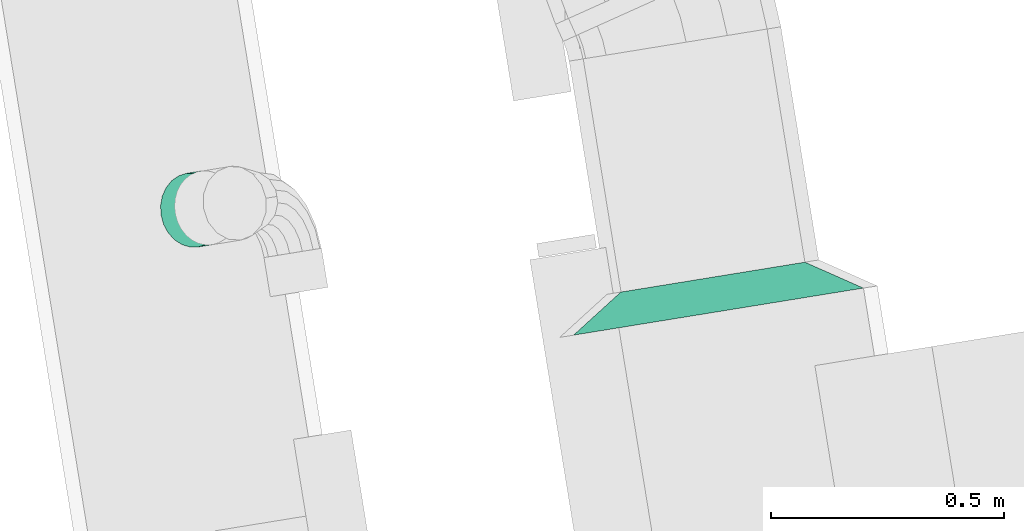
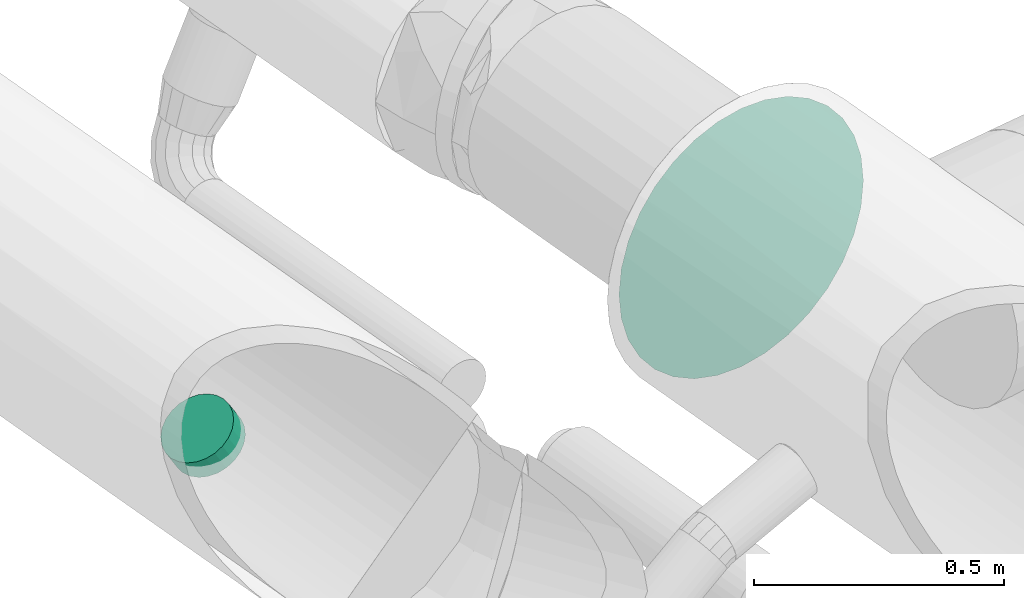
# One storey, part 33 of 39: 2 flow fittings.
"""IFC2X3 building model written with IfcOpenShell, lengths in millimetres."""

import ifcopenshell
import ifcopenshell.guid

model = None  # the IFC model being written
_history = None  # IfcOwnerHistory: only IFC2X3 demands one
_inside = {}  # id of a spatial element -> (the spatial element, [elements in it])
_under = {}  # id of a project, library or spatial element -> (it, [spatial elements below it])
_declared = {}  # id of a project -> (the project, [libraries it declares])
_typed = {}  # id of a type object -> (the type object, [elements of that type])
_made_of = {}  # id of a material, layer set ... -> (it, [elements and type objects made of it])


def new_model(schema):
    """Start an empty IFC model of exactly this schema.

    Asked for "IFC4X3", IfcOpenShell would pick the latest addendum, in which some entities
    have other attributes; the version numbers below select the first issue.
    IFC2X3 requires an IfcOwnerHistory on every rooted entity: one is made here for all.
    """
    global model, _history
    if schema == "IFC4X3":
        model = ifcopenshell.file(schema_version=(4, 3, 0, 0))
    else:
        model = ifcopenshell.file(schema=schema)
    _inside.clear()
    _under.clear()
    _declared.clear()
    _typed.clear()
    _made_of.clear()
    _history = None
    if model.schema == "IFC2X3":
        org = make("IfcOrganization", Name="unknown")
        user = make(
            "IfcPersonAndOrganization",
            ThePerson=make("IfcPerson", FamilyName="unknown"),
            TheOrganization=org,
        )
        app = make(
            "IfcApplication",
            ApplicationDeveloper=org,
            Version="unknown",
            ApplicationFullName="unknown",
            ApplicationIdentifier="unknown",
        )
        _history = make(
            "IfcOwnerHistory",
            OwningUser=user,
            OwningApplication=app,
            ChangeAction="ADDED",
            CreationDate=0,
        )
    return model


def make(cls, **values):
    """One entity of the class cls with the attributes given. An attribute that is None is left unset."""
    return model.create_entity(
        cls, **{name: value for name, value in values.items() if value is not None}
    )


def entity(cls, *values):
    """Any entity or typed value of the class cls, its attributes in the order of the schema. None: left unset."""
    e = model.create_entity(cls)
    for i, value in enumerate(values):
        if value is not None:
            e[i] = value
    return e


def rooted(cls, **values):
    """An entity with a GlobalId (a new one), such as an element, a storey or a relation."""
    return make(cls, GlobalId=ifcopenshell.guid.new(), OwnerHistory=_history, **values)


def si_unit(unit_type, name, prefix=None):
    """IfcSIUnit, for example si_unit("LENGTHUNIT", "METRE", prefix="MILLI")."""
    return make("IfcSIUnit", UnitType=unit_type, Prefix=prefix, Name=name)


def converted_unit(unit_type, name, factor, base, dimensions=None, offset=None):
    """IfcConversionBasedUnit, such as the inch: factor (a typed value) times the base unit."""
    return make(
        "IfcConversionBasedUnit"
        if offset is None
        else "IfcConversionBasedUnitWithOffset",
        ConversionOffset=offset,
        Dimensions=None
        if dimensions is None
        else entity("IfcDimensionalExponents", *dimensions),
        UnitType=unit_type,
        Name=name,
        ConversionFactor=make(
            "IfcMeasureWithUnit", ValueComponent=factor, UnitComponent=base
        ),
    )


def derived_unit(unit_type, elements):
    """IfcDerivedUnit: a product of units, each with its exponent."""
    return make(
        "IfcDerivedUnit",
        Elements=[
            make("IfcDerivedUnitElement", Unit=unit, Exponent=power)
            for unit, power in elements
        ],
        UnitType=unit_type,
    )


def assignment(units):
    """IfcUnitAssignment: the units of a project."""
    return None if units is None else make("IfcUnitAssignment", Units=units)


def point(xyz):
    """IfcCartesianPoint."""
    return None if xyz is None else make("IfcCartesianPoint", Coordinates=xyz)


def direction(xyz):
    """IfcDirection."""
    return None if xyz is None else make("IfcDirection", DirectionRatios=xyz)


def frame(location, z_axis=None, x_axis=None):
    """IfcAxis2Placement3D, a coordinate frame: its origin and axes. An axis left out is left unset."""
    return make(
        "IfcAxis2Placement3D",
        Location=point(location),
        Axis=direction(z_axis),
        RefDirection=direction(x_axis),
    )


def origin():
    """The frame at (0, 0, 0) with its axes left unset."""
    return frame((0.0, 0.0, 0.0))


def origin_with_axes():
    """The frame at (0, 0, 0) with the z axis (0, 0, 1) and the x axis (1, 0, 0) written out."""
    return frame((0.0, 0.0, 0.0), z_axis=(0.0, 0.0, 1.0), x_axis=(1.0, 0.0, 0.0))


def place(relative_to, where):
    """IfcLocalPlacement: puts the frame where relative to a parent placement (None: the world)."""
    return make(
        "IfcLocalPlacement", PlacementRelTo=relative_to, RelativePlacement=where
    )


def context(
    kind, dimensions, precision=None, world=None, true_north=None, identifier=None
):
    """IfcGeometricRepresentationContext, for example the 3D "Model" context."""
    return make(
        "IfcGeometricRepresentationContext",
        ContextIdentifier=identifier,
        ContextType=kind,
        CoordinateSpaceDimension=dimensions,
        Precision=precision,
        WorldCoordinateSystem=world,
        TrueNorth=true_north,
    )


def subcontext(parent, identifier, kind, view, scale=None):
    """IfcGeometricRepresentationSubContext, for example "Body" below "Model"."""
    return make(
        "IfcGeometricRepresentationSubContext",
        ContextIdentifier=identifier,
        ContextType=kind,
        ParentContext=parent,
        TargetScale=scale,
        TargetView=view,
    )


def project(units=None, contexts=None):
    """IfcProject with its units and contexts."""
    return rooted(
        "IfcProject",
        Name="project",
        RepresentationContexts=contexts,
        UnitsInContext=assignment(units),
    )


def spatial(cls, under=None, at=None, **own):
    """A site, building, storey or space (cls), placed at a placement, below another one or the project."""
    s = rooted(cls, ObjectPlacement=at, **own)
    if under is not None:
        _under.setdefault(under.id(), (under, []))[1].append(s)
    return s


def faces_of(points, faces, orient=None, outer=None):
    """IfcFace entities. A face is a list of loops; a loop is a list of indices into points, from 0.

    orient and outer hold one flag for each loop. By default every Orientation is true, the
    first loop of a face is its IfcFaceOuterBound and the others are IfcFaceBound.
    """
    made = []
    for i, loops in enumerate(faces):
        bounds = []
        for j, loop in enumerate(loops):
            is_outer = j == 0 if outer is None else outer[i][j]
            bounds.append(
                make(
                    "IfcFaceOuterBound" if is_outer else "IfcFaceBound",
                    Bound=make("IfcPolyLoop", Polygon=[points[k] for k in loop]),
                    Orientation=True if orient is None else orient[i][j],
                )
            )
        made.append(make("IfcFace", Bounds=bounds))
    return made


def faceted_brep(points, faces, orient=None, outer=None, voids=None):
    """IfcFacetedBrep: a solid bounded by flat faces; with voids (closed shells), ...WithVoids."""
    shared = [point(p) for p in points]
    hull = make("IfcClosedShell", CfsFaces=faces_of(shared, faces, orient, outer))
    if voids is None:
        return make("IfcFacetedBrep", Outer=hull)
    return make(
        "IfcFacetedBrepWithVoids",
        Outer=hull,
        Voids=[
            make(cls, CfsFaces=faces_of(shared, fs, o, b)) for cls, fs, o, b in voids
        ],
    )


def shape(context_of_items, identifier, shape_type, items):
    """IfcShapeRepresentation: the items that make up one representation, for example the "Body"."""
    return make(
        "IfcShapeRepresentation",
        ContextOfItems=context_of_items,
        RepresentationIdentifier=identifier,
        RepresentationType=shape_type,
        Items=items,
    )


def source(mapping_origin, context_of_items, identifier, shape_type, items):
    """IfcRepresentationMap: a shape defined once, which mapped items show again and again."""
    return make(
        "IfcRepresentationMap",
        MappingOrigin=mapping_origin,
        MappedRepresentation=shape(context_of_items, identifier, shape_type, items),
    )


def transform(
    local_origin,
    x_axis=None,
    y_axis=None,
    z_axis=None,
    scale=None,
    scale2=None,
    scale3=None,
    uniform=True,
):
    """IfcCartesianTransformationOperator3D, or its non-uniform kind. x_axis, y_axis, z_axis: its Axis1, 2, 3."""
    if uniform:
        return make(
            "IfcCartesianTransformationOperator3D",
            Axis1=direction(x_axis),
            Axis2=direction(y_axis),
            LocalOrigin=point(local_origin),
            Scale=scale,
            Axis3=direction(z_axis),
        )
    return make(
        "IfcCartesianTransformationOperator3DnonUniform",
        Axis1=direction(x_axis),
        Axis2=direction(y_axis),
        LocalOrigin=point(local_origin),
        Scale=scale,
        Axis3=direction(z_axis),
        Scale2=scale2,
        Scale3=scale3,
    )


def mapped(mapping_source, mapping_target):
    """IfcMappedItem: shows the shape of a source again, moved by a transform."""
    return make(
        "IfcMappedItem", MappingSource=mapping_source, MappingTarget=mapping_target
    )


def material(Name=None, Category=None):
    """IfcMaterial."""
    return make("IfcMaterial", Name=Name, Category=Category)


def made_of(thing, what):
    """Note that an element or type object is made of a material, layer set ...; save() writes the relation."""
    if what is not None:
        _made_of.setdefault(what.id(), (what, []))[1].append(thing)
    return thing


def type_object(cls, material=None, **own):
    """A type object (cls), such as IfcWallType, which elements share."""
    return made_of(rooted(cls, **own), material)


def element(
    cls,
    number,
    at=None,
    inside=None,
    cuts=None,
    type_object=None,
    material=None,
    context=None,
    identifier="Body",
    shape_type=None,
    held_by="IfcProductDefinitionShape",
    body=None,
    shapes=None,
    **own,
):
    """One element of the class cls, such as IfcWall. Its Tag is "e" and its number.

    at: its placement. inside: the storey or other place that contains it. cuts: it is an
    opening in that element (IfcRelVoidsElement). A single representation is given by context,
    identifier, shape_type and body (its items); several are given by shapes. held_by: the class
    of the entity that holds the representations. save() writes the other relations.
    """
    e = rooted(cls, Tag="e%d" % number, ObjectPlacement=at, **own)
    if body is not None:
        shapes = [shape(context, identifier, shape_type, body)]
    if shapes is not None:
        e.Representation = make(held_by, Representations=shapes)
    if inside is not None:
        _inside.setdefault(inside.id(), (inside, []))[1].append(e)
    if cuts is not None:
        rooted(
            "IfcRelVoidsElement", RelatingBuildingElement=cuts, RelatedOpeningElement=e
        )
    if type_object is not None:
        _typed.setdefault(type_object.id(), (type_object, []))[1].append(e)
    return made_of(e, material)


def aggregate(whole, parts):
    """IfcRelAggregates: a whole, such as a stair, and the parts it consists of."""
    return rooted("IfcRelAggregates", RelatingObject=whole, RelatedObjects=parts)


def save(model, path):
    """Write the relations noted so far, then the file.

    IfcRelAggregates (storeys below a building ...), IfcRelContainedInSpatialStructure (elements
    in a storey), IfcRelDefinesByType, IfcRelAssociatesMaterial and IfcRelDeclares: one each for
    every whole, place, type object, material and project.
    """
    for whole, parts in _under.values():
        aggregate(whole, parts)
    for where, things in _inside.values():
        rooted(
            "IfcRelContainedInSpatialStructure",
            RelatedElements=things,
            RelatingStructure=where,
        )
    for kind, things in _typed.values():
        rooted("IfcRelDefinesByType", RelatedObjects=things, RelatingType=kind)
    for what, things in _made_of.values():
        rooted("IfcRelAssociatesMaterial", RelatedObjects=things, RelatingMaterial=what)
    for by, libraries in _declared.values():
        rooted("IfcRelDeclares", RelatingContext=by, RelatedDefinitions=libraries)
    model.write(path)


model = new_model("IFC2X3")

# Units and contexts
plan_context = context("Plan", 3, precision=1e-05, world=origin_with_axes())
model_context = context("Model", 3, precision=0.01, world=origin(), true_north=direction((6.12323399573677e-17, 1.0)))
body_context = subcontext(model_context, "Body", "Model", "MODEL_VIEW")
ifc_project = project(units=[converted_unit("PLANEANGLEUNIT", "DEGREE", entity("IfcPositiveLengthMeasure", 0.0174532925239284), si_unit("PLANEANGLEUNIT", "RADIAN"), dimensions=[0, 0, 0, 0, 0, 0, 0]), si_unit("AREAUNIT", "SQUARE_METRE"), si_unit("LENGTHUNIT", "METRE", prefix="MILLI"), si_unit("MASSUNIT", "GRAM", prefix="KILO"), si_unit("POWERUNIT", "WATT"), si_unit("PRESSUREUNIT", "PASCAL", prefix="KILO"), si_unit("FORCEUNIT", "NEWTON", prefix="KILO"), si_unit("ELECTRICVOLTAGEUNIT", "VOLT"), si_unit("ELECTRICCURRENTUNIT", "AMPERE"), si_unit("THERMODYNAMICTEMPERATUREUNIT", "DEGREE_CELSIUS"), si_unit("TIMEUNIT", "SECOND"), si_unit("VOLUMEUNIT", "CUBIC_METRE"), derived_unit("LINEARVELOCITYUNIT", [(si_unit("LENGTHUNIT", "METRE"), 1), (si_unit("TIMEUNIT", "SECOND"), -1)]), derived_unit("VOLUMETRICFLOWRATEUNIT", [(si_unit("VOLUMEUNIT", "CUBIC_METRE"), 1), (si_unit("TIMEUNIT", "SECOND"), -1)]), derived_unit("THERMALTRANSMITTANCEUNIT", [(si_unit("POWERUNIT", "WATT"), 1), (si_unit("THERMODYNAMICTEMPERATUREUNIT", "KELVIN"), -1), (si_unit("AREAUNIT", "SQUARE_METRE"), -1)]), derived_unit("SOUNDPRESSUREUNIT", [(si_unit("PRESSUREUNIT", "PASCAL"), 1)])], contexts=[model_context, plan_context])

# Site, building, storey
site_placement = place(None, frame((-0.00071070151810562, 0.00438415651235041, 0.0), z_axis=(0.0, 0.0, 1.0), x_axis=(-0.160236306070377, 0.987078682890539, 0.0)))
site = spatial("IfcSite", under=ifc_project, at=site_placement, Name="Default", CompositionType="ELEMENT")
building_placement = place(site_placement, origin_with_axes())
building = spatial("IfcBuilding", under=site, at=building_placement, CompositionType="ELEMENT")
storey_placement = place(building_placement, frame((0.0, 0.0, 58999.9999999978), z_axis=(0.0, 0.0, 1.0), x_axis=(1.0, 0.0, 0.0)))
storey = spatial("IfcBuildingStorey", under=building, at=storey_placement, Name="Nivå F", CompositionType="ELEMENT", Elevation=58999.9999999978)

# Flow fittings
ifc_material_1 = material(Name="Material_Duct")
duct_fitting_type_1 = type_object("IfcDuctFittingType", Name="magicirc_reduction_001:magicirc_reduction_001", PredefinedType="NOTDEFINED", material=ifc_material_1)
shared_shape_1 = source(origin(), body_context, "Body", "Brep", [
    faceted_brep([(75.0, -70.9209774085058, 187.00370706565), (75.0, -113.61294934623, 164.597231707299), (75.0, -149.702149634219, 132.624990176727), (75.0, -177.091205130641, 92.9450929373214), (75.0, -194.188363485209, 47.8635913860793), (75.0, -200.0, 0.000458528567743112), (75.0, -194.18836348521, -47.8626743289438), (75.0, -177.091205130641, -92.944175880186), (75.0, -149.70214963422, -132.624073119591), (75.0, -113.612949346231, -164.596314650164), (75.0, -70.9209774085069, -187.002790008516), (75.0, -24.1073360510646, -198.541316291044), (75.0, 24.1073360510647, -198.541316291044), (75.0, 70.9209774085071, -187.002790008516), (75.0, 113.612949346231, -164.596314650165), (75.0, 149.70214963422, -132.624073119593), (75.0, 177.091205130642, -92.9441758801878), (75.0, 194.188363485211, -47.8626743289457), (75.0, 200.0, 0.000458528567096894), (75.0, 194.188363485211, 47.8635913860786), (75.0, 177.091205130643, 92.9450929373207), (75.0, 149.702149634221, 132.624990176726), (75.0, 113.612949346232, 164.597231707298), (75.0, 70.9209774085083, 187.00370706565), (75.0, 24.1073360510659, 198.542233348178), (75.0, -24.1073360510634, 198.542233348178), (0.0, 0.0, 315.0), (0.0, 61.4534514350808, 308.947363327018), (0.0, 120.545281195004, 291.022052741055), (0.0, 175.004623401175, 261.912927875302), (0.0, 222.738636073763, 222.738636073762), (0.0, 261.912927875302, 175.004623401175), (0.0, 291.022052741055, 120.545281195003), (0.0, 308.947363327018, 61.4534514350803), (0.0, 315.0, 0.0), (0.0, 308.947363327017, -61.4534514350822), (0.0, 291.022052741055, -120.545281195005), (0.0, 261.912927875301, -175.004623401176), (0.0, 222.738636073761, -222.738636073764), (0.0, 175.004623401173, -261.912927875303), (0.0, 120.545281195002, -291.022052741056), (0.0, 61.4534514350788, -308.947363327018), (0.0, 0.0, -315.0), (0.0, -61.4534514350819, -308.947363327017), (0.0, -120.545281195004, -291.022052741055), (0.0, -175.004623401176, -261.912927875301), (0.0, -222.738636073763, -222.738636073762), (0.0, -261.912927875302, -175.004623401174), (0.0, -291.022052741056, -120.545281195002), (0.0, -308.947363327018, -61.4534514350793), (0.0, -315.0, 0.0), (0.0, -308.947363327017, 61.4534514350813), (0.0, -291.022052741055, 120.545281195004), (0.0, -261.912927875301, 175.004623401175), (0.0, -222.738636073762, 222.738636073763), (0.0, -175.004623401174, 261.912927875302), (0.0, -120.545281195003, 291.022052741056), (0.0, -61.4534514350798, 308.947363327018), (45.5131018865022, -245.213243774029, 0.000278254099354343), (35.4527162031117, -201.476796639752, -165.347527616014), (37.4562292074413, 71.1674817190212, -247.539683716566), (38.2961638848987, 120.809187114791, -226.017854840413), (35.7939285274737, -248.915471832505, -75.5074561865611), (38.2961659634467, -120.809178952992, -226.01785558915), (35.7939335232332, 248.915462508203, -75.5074605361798), (33.1963596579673, -167.397128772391, -204.270299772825), (40.4448626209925, 160.626862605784, -195.448442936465), (33.193113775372, -76.8538479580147, -252.674196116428), (45.5130923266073, 245.213258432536, 0.00027825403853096), (32.9940872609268, -233.195591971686, -124.627123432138), (35.2252446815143, -25.5812903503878, -259.731014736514), (32.9940920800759, 233.195586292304, -124.627118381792), (35.4527203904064, 201.476797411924, -165.347516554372), (32.2673289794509, 24.2693878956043, -264.411769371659), (35.4527162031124, 201.476796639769, 165.347961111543), (37.4562292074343, -71.1674817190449, 247.540141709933), (38.296163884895, -120.809187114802, 226.018323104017), (35.7939285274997, 248.915471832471, 75.5078938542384), (38.2961659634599, 120.809178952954, 226.018323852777), (35.7939335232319, -248.915462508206, 75.5078982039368), (33.19635965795, 167.397128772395, 204.270705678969), (40.4448626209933, -160.626862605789, 195.448937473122), (33.1931137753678, 76.8538479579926, 252.674601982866), (32.994087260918, 233.19559197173, 124.627526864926), (35.2252446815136, 25.5812903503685, 259.731445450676), (32.9940920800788, -233.195586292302, 124.627521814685), (35.4527203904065, -201.476797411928, 165.347950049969), (32.2673289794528, -24.2693878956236, 264.412163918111)], [[[0, 1, 2, 3, 4, 5, 6, 7, 8, 9, 10, 11, 12, 13, 14, 15, 16, 17, 18, 19, 20, 21, 22, 23, 24, 25]], [[26, 27, 28, 29, 30, 31, 32, 33, 34, 35, 36, 37, 38, 39, 40, 41, 42, 43, 44, 45, 46, 47, 48, 49, 50, 51, 52, 53, 54, 55, 56, 57]], [[58, 50, 49]], [[7, 59, 8]], [[60, 61, 13]], [[58, 49, 62]], [[44, 63, 45]], [[16, 64, 17]], [[45, 63, 65]], [[66, 15, 14]], [[46, 59, 47]], [[58, 62, 6]], [[67, 11, 10]], [[63, 44, 67]], [[68, 17, 64]], [[5, 58, 6]], [[47, 69, 48]], [[6, 62, 7]], [[69, 47, 59]], [[12, 60, 13]], [[14, 13, 61]], [[65, 9, 8]], [[10, 9, 63]], [[62, 69, 7]], [[67, 43, 70]], [[65, 8, 59]], [[63, 67, 10]], [[49, 48, 62]], [[43, 42, 70]], [[37, 71, 72]], [[72, 66, 38]], [[15, 66, 72]], [[40, 61, 60]], [[67, 70, 11]], [[39, 38, 66]], [[43, 67, 44]], [[35, 64, 36]], [[12, 73, 60]], [[36, 64, 71]], [[46, 65, 59]], [[72, 38, 37]], [[9, 65, 63]], [[39, 66, 61]], [[68, 18, 17]], [[73, 12, 70]], [[39, 61, 40]], [[37, 36, 71]], [[73, 70, 42]], [[62, 48, 69]], [[12, 11, 70]], [[7, 69, 59]], [[16, 72, 71]], [[41, 60, 73]], [[66, 14, 61]], [[68, 64, 35]], [[72, 16, 15]], [[45, 65, 46]], [[35, 34, 68]], [[41, 73, 42]], [[16, 71, 64]], [[40, 60, 41]], [[68, 34, 33]], [[20, 74, 21]], [[75, 76, 0]], [[68, 33, 77]], [[28, 78, 29]], [[3, 79, 4]], [[29, 78, 80]], [[81, 2, 1]], [[30, 74, 31]], [[68, 77, 19]], [[82, 24, 23]], [[78, 28, 82]], [[58, 4, 79]], [[18, 68, 19]], [[31, 83, 32]], [[19, 77, 20]], [[83, 31, 74]], [[25, 75, 0]], [[1, 0, 76]], [[80, 22, 21]], [[23, 22, 78]], [[77, 83, 20]], [[82, 27, 84]], [[80, 21, 74]], [[78, 82, 23]], [[33, 32, 77]], [[27, 26, 84]], [[53, 85, 86]], [[86, 81, 54]], [[2, 81, 86]], [[56, 76, 75]], [[82, 84, 24]], [[55, 54, 81]], [[27, 82, 28]], [[51, 79, 52]], [[25, 87, 75]], [[52, 79, 85]], [[30, 80, 74]], [[86, 54, 53]], [[22, 80, 78]], [[55, 81, 76]], [[58, 5, 4]], [[87, 25, 84]], [[55, 76, 56]], [[53, 52, 85]], [[87, 84, 26]], [[77, 32, 83]], [[25, 24, 84]], [[20, 83, 74]], [[3, 86, 85]], [[57, 75, 87]], [[81, 1, 76]], [[58, 79, 51]], [[86, 3, 2]], [[29, 80, 30]], [[51, 50, 58]], [[57, 87, 26]], [[3, 85, 79]], [[56, 75, 57]]]),
])
flow_fitting_1_placement = place(storey_placement, frame((773703.610474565, -503340.008615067, 3129.99954147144), z_axis=(0.0, 0.0, 1.0), x_axis=(1.0, 0.0, 0.0)))
element("IfcFlowFitting", 1, at=flow_fitting_1_placement, inside=storey, type_object=duct_fitting_type_1, material=ifc_material_1, Name="magicirc_reduction_001:magicirc_reduction_001", ObjectType="magicirc_reduction_001:magicirc_reduction_001", context=body_context, shape_type="MappedRepresentation", body=[
    mapped(shared_shape_1, transform((0.0, 0.0, 0.0), scale=1.0)),
])
ifc_material_2 = material(Name="<Unnamed>")
duct_fitting_type_2 = type_object("IfcDuctFittingType", Name="magicirc_tapoutlet_1:magicirc_tapoutlet_001", PredefinedType="NOTDEFINED", material=ifc_material_2)
shared_shape_2 = source(origin(), body_context, "Body", "Brep", [
    faceted_brep([(-32.4557150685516, 0.0, -80.0), (-32.4557150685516, -20.7055236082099, -77.274066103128), (-32.4557150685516, -40.0, -69.282032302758), (-32.4557150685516, -56.5685424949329, -56.5685424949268), (-32.4557150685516, -69.2820323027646, -40.0), (-32.4557150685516, -77.2740661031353, -20.7055236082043), (-32.4557150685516, -80.0, 0.0), (-32.4557150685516, -77.2740661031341, 20.7055236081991), (-32.4557150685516, -69.2820323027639, 40.0), (-32.4557150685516, -56.5685424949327, 56.5685424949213), (-32.4557150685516, -40.0, 69.2820323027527), (-32.4557150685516, -20.7055236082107, 77.2740661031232), (-32.4557150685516, 0.0, 80.0), (-32.4557150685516, 20.7055236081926, 77.2740661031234), (-32.4557150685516, 40.0, 69.2820323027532), (-32.4557150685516, 56.5685424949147, 56.568542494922), (-32.4557150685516, 69.2820323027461, 40.0), (-32.4557150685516, 77.2740661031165, 20.7055236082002), (-32.4557150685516, 80.0, 0.0), (-32.4557150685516, 77.2740661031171, -20.705523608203), (-32.4557150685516, 69.2820323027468, -40.0), (-32.4557150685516, 56.5685424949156, -56.568542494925), (-32.4557150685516, 40.0, -69.2820323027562), (-32.4557150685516, 20.7055236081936, -77.2740661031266), (0.0, 0.0, 80.0), (25.0, 0.0, 80.0), (25.0, 20.7055236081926, 77.2740661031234), (0.0, 20.7055236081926, 77.2740661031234), (25.0, 40.0, 69.2820323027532), (0.0, 40.0, 69.2820323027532), (25.0, 56.5685424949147, 56.568542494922), (0.0, 56.5685424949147, 56.568542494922), (0.0, 69.2820323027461, 40.0), (25.0, 69.2820323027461, 40.0), (25.0, 77.2740661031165, 20.7055236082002), (0.0, 77.2740661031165, 20.7055236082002), (25.0, 80.0, 0.0), (0.0, 80.0, 0.0), (25.0, 77.2740661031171, -20.705523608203), (0.0, 77.2740661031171, -20.705523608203), (25.0, 69.2820323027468, -40.0), (0.0, 69.2820323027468, -40.0), (25.0, 56.5685424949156, -56.568542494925), (0.0, 56.5685424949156, -56.568542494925), (0.0, 20.7055236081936, -77.2740661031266), (25.0, 20.7055236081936, -77.2740661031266), (25.0, 0.0, -80.0), (0.0, 0.0, -80.0), (0.0, 40.0, -69.2820323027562), (25.0, 40.0, -69.2820323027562), (25.0, -20.7055236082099, -77.274066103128), (0.0, -20.7055236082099, -77.274066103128), (25.0, -40.0, -69.282032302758), (0.0, -40.0, -69.282032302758), (25.0, -56.5685424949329, -56.5685424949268), (0.0, -56.5685424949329, -56.5685424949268), (0.0, -69.2820323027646, -40.0), (25.0, -69.2820323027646, -40.0), (25.0, -77.2740661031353, -20.7055236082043), (0.0, -77.2740661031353, -20.7055236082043), (25.0, -80.0, 0.0), (0.0, -80.0, 0.0), (25.0, -77.2740661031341, 20.7055236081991), (0.0, -77.2740661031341, 20.7055236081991), (25.0, -69.2820323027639, 40.0), (0.0, -69.2820323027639, 40.0), (25.0, -56.5685424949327, 56.5685424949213), (0.0, -56.5685424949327, 56.5685424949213), (0.0, -40.0, 69.2820323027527), (25.0, -40.0, 69.2820323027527), (25.0, -20.7055236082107, 77.2740661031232), (0.0, -20.7055236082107, 77.2740661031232)], [[[0, 1, 2, 3, 4, 5, 6, 7, 8, 9, 10, 11, 12, 13, 14, 15, 16, 17, 18, 19, 20, 21, 22, 23]], [[12, 24, 25, 26, 27, 13]], [[13, 27, 26, 28, 29, 14]], [[14, 29, 28, 30, 31, 15]], [[16, 32, 33, 34, 35, 17]], [[17, 35, 34, 36, 37, 18]], [[15, 31, 30, 33, 32, 16]], [[18, 37, 36, 38, 39, 19]], [[19, 39, 38, 40, 41, 20]], [[20, 41, 40, 42, 43, 21]], [[44, 45, 46, 47, 0, 23]], [[48, 49, 45, 44, 23, 22]], [[21, 43, 42, 49, 48, 22]], [[0, 47, 46, 50, 51, 1]], [[1, 51, 50, 52, 53, 2]], [[2, 53, 52, 54, 55, 3]], [[4, 56, 57, 58, 59, 5]], [[5, 59, 58, 60, 61, 6]], [[3, 55, 54, 57, 56, 4]], [[6, 61, 60, 62, 63, 7]], [[7, 63, 62, 64, 65, 8]], [[8, 65, 64, 66, 67, 9]], [[10, 68, 69, 70, 71, 11]], [[11, 71, 70, 25, 24, 12]], [[9, 67, 66, 69, 68, 10]], [[36, 34, 33, 30, 28, 26, 25, 70, 69, 66, 64, 62, 60, 58, 57, 54, 52, 50, 46, 45, 49, 42, 40, 38]]]),
    faceted_brep([(25.0, 80.0, 0.0), (25.0, 77.2740661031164, 20.7055236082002), (25.0, 69.282032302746, 40.0), (25.0, 56.5685424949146, 56.568542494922), (25.0, 40.0, 69.2820323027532), (25.0, 20.7055236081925, 77.2740661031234), (25.0, 0.0, 80.0), (25.0, -20.7055236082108, 77.2740661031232), (25.0, -40.0, 69.2820323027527), (25.0, -56.5685424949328, 56.5685424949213), (25.0, -69.282032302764, 40.0), (25.0, -77.2740661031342, 20.7055236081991), (25.0, -80.0, 0.0), (25.0, -77.2740661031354, -20.7055236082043), (25.0, -69.2820323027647, -40.0), (25.0, -56.568542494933, -56.5685424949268), (25.0, -40.0, -69.282032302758), (25.0, -20.70552360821, -77.274066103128), (25.0, 0.0, -80.0), (25.0, 20.7055236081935, -77.2740661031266), (25.0, 40.0, -69.2820323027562), (25.0, 56.5685424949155, -56.568542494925), (25.0, 69.2820323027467, -40.0), (25.0, 77.2740661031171, -20.705523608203), (0.0, 0.0, 80.0), (0.0, 20.7055236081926, 77.2740661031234), (-32.4557150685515, 20.7055236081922, 77.2740661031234), (-32.4557150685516, 0.0, 80.0), (0.0, 40.0, 69.2820323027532), (-32.4557150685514, 40.0, 69.2820323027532), (0.0, 56.5685424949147, 56.568542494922), (-32.4557150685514, 56.5685424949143, 56.568542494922), (0.0, 69.282032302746, 40.0), (0.0, 77.2740661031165, 20.7055236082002), (-32.4557150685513, 77.2740661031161, 20.7055236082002), (-32.4557150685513, 69.2820323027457, 40.0), (0.0, 80.0, 0.0), (-32.4557150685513, 80.0, 0.0), (0.0, 77.2740661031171, -20.705523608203), (-32.4557150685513, 77.2740661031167, -20.705523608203), (0.0, 69.2820323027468, -40.0), (-32.4557150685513, 69.2820323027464, -40.0), (0.0, 56.5685424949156, -56.568542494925), (-32.4557150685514, 56.5685424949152, -56.568542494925), (0.0, 0.0, -80.0), (-32.4557150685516, 0.0, -80.0), (-32.4557150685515, 20.7055236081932, -77.2740661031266), (0.0, 20.7055236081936, -77.2740661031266), (-32.4557150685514, 40.0, -69.2820323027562), (0.0, 40.0, -69.2820323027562), (0.0, -20.7055236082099, -77.274066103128), (-32.4557150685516, -20.7055236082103, -77.274066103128), (0.0, -40.0, -69.282032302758), (-32.4557150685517, -40.0, -69.282032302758), (0.0, -56.568542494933, -56.5685424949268), (-32.4557150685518, -56.5685424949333, -56.5685424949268), (0.0, -69.2820323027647, -40.0), (0.0, -77.2740661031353, -20.7055236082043), (-32.4557150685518, -77.2740661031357, -20.7055236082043), (-32.4557150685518, -69.282032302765, -40.0), (0.0, -80.0, 0.0), (-32.4557150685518, -80.0, 0.0), (0.0, -77.2740661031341, 20.7055236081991), (-32.4557150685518, -77.2740661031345, 20.7055236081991), (0.0, -69.2820323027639, 40.0), (-32.4557150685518, -69.2820323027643, 40.0), (0.0, -56.5685424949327, 56.5685424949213), (-32.4557150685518, -56.5685424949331, 56.5685424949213), (0.0, -40.0, 69.2820323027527), (0.0, -20.7055236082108, 77.2740661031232), (-32.4557150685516, -20.7055236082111, 77.2740661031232), (-32.4557150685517, -40.0, 69.2820323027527)], [[[0, 1, 2, 3, 4, 5, 6, 7, 8, 9, 10, 11, 12, 13, 14, 15, 16, 17, 18, 19, 20, 21, 22, 23]], [[24, 6, 5, 25, 26, 27]], [[25, 5, 4, 28, 29, 26]], [[28, 4, 3, 30, 31, 29]], [[32, 2, 1, 33, 34, 35]], [[33, 1, 0, 36, 37, 34]], [[30, 3, 2, 32, 35, 31]], [[36, 0, 23, 38, 39, 37]], [[38, 23, 22, 40, 41, 39]], [[40, 22, 21, 42, 43, 41]], [[19, 18, 44, 45, 46, 47]], [[20, 19, 47, 46, 48, 49]], [[42, 21, 20, 49, 48, 43]], [[44, 18, 17, 50, 51, 45]], [[50, 17, 16, 52, 53, 51]], [[52, 16, 15, 54, 55, 53]], [[56, 14, 13, 57, 58, 59]], [[57, 13, 12, 60, 61, 58]], [[54, 15, 14, 56, 59, 55]], [[60, 12, 11, 62, 63, 61]], [[62, 11, 10, 64, 65, 63]], [[64, 10, 9, 66, 67, 65]], [[68, 8, 7, 69, 70, 71]], [[69, 7, 6, 24, 27, 70]], [[66, 9, 8, 68, 71, 67]], [[45, 51, 53, 55, 59, 58, 61, 63, 65, 67, 71, 70, 27, 26, 29, 31, 35, 34, 37, 39, 41, 43, 48, 46]]]),
    faceted_brep([(-32.4557150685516, 0.0, -80.0), (-32.4557150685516, -20.7055236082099, -77.274066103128), (-32.4557150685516, -40.0, -69.282032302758), (-32.4557150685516, -56.5685424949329, -56.5685424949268), (-32.4557150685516, -69.2820323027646, -40.0), (-32.4557150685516, -77.2740661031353, -20.7055236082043), (-32.4557150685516, -80.0, 0.0), (-32.4557150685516, -77.2740661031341, 20.7055236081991), (-32.4557150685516, -69.2820323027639, 40.0), (-32.4557150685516, -56.5685424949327, 56.5685424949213), (-32.4557150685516, -40.0, 69.2820323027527), (-32.4557150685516, -20.7055236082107, 77.2740661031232), (-32.4557150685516, 0.0, 80.0), (-32.4557150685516, 20.7055236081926, 77.2740661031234), (-32.4557150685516, 40.0, 69.2820323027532), (-32.4557150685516, 56.5685424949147, 56.568542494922), (-32.4557150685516, 69.2820323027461, 40.0), (-32.4557150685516, 77.2740661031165, 20.7055236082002), (-32.4557150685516, 80.0, 0.0), (-32.4557150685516, 77.2740661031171, -20.705523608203), (-32.4557150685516, 69.2820323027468, -40.0), (-32.4557150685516, 56.5685424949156, -56.568542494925), (-32.4557150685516, 40.0, -69.2820323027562), (-32.4557150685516, 20.7055236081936, -77.2740661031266), (0.0, 0.0, 80.0), (25.0, 0.0, 80.0), (25.0, 20.7055236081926, 77.2740661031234), (0.0, 20.7055236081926, 77.2740661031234), (25.0, 40.0, 69.2820323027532), (0.0, 40.0, 69.2820323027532), (25.0, 56.5685424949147, 56.568542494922), (0.0, 56.5685424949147, 56.568542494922), (0.0, 69.2820323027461, 40.0), (25.0, 69.2820323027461, 40.0), (25.0, 77.2740661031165, 20.7055236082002), (0.0, 77.2740661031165, 20.7055236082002), (25.0, 80.0, 0.0), (0.0, 80.0, 0.0), (25.0, 77.2740661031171, -20.705523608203), (0.0, 77.2740661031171, -20.705523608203), (25.0, 69.2820323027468, -40.0), (0.0, 69.2820323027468, -40.0), (25.0, 56.5685424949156, -56.568542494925), (0.0, 56.5685424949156, -56.568542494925), (0.0, 20.7055236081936, -77.2740661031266), (25.0, 20.7055236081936, -77.2740661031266), (25.0, 0.0, -80.0), (0.0, 0.0, -80.0), (0.0, 40.0, -69.2820323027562), (25.0, 40.0, -69.2820323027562), (25.0, -20.7055236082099, -77.274066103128), (0.0, -20.7055236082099, -77.274066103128), (25.0, -40.0, -69.282032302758), (0.0, -40.0, -69.282032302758), (25.0, -56.5685424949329, -56.5685424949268), (0.0, -56.5685424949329, -56.5685424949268), (0.0, -69.2820323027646, -40.0), (25.0, -69.2820323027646, -40.0), (25.0, -77.2740661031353, -20.7055236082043), (0.0, -77.2740661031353, -20.7055236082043), (25.0, -80.0, 0.0), (0.0, -80.0, 0.0), (25.0, -77.2740661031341, 20.7055236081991), (0.0, -77.2740661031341, 20.7055236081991), (25.0, -69.2820323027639, 40.0), (0.0, -69.2820323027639, 40.0), (25.0, -56.5685424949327, 56.5685424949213), (0.0, -56.5685424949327, 56.5685424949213), (0.0, -40.0, 69.2820323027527), (25.0, -40.0, 69.2820323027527), (25.0, -20.7055236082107, 77.2740661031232), (0.0, -20.7055236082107, 77.2740661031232)], [[[0, 1, 2, 3, 4, 5, 6, 7, 8, 9, 10, 11, 12, 13, 14, 15, 16, 17, 18, 19, 20, 21, 22, 23]], [[12, 24, 25, 26, 27, 13]], [[13, 27, 26, 28, 29, 14]], [[14, 29, 28, 30, 31, 15]], [[16, 32, 33, 34, 35, 17]], [[17, 35, 34, 36, 37, 18]], [[15, 31, 30, 33, 32, 16]], [[18, 37, 36, 38, 39, 19]], [[19, 39, 38, 40, 41, 20]], [[20, 41, 40, 42, 43, 21]], [[44, 45, 46, 47, 0, 23]], [[48, 49, 45, 44, 23, 22]], [[21, 43, 42, 49, 48, 22]], [[0, 47, 46, 50, 51, 1]], [[1, 51, 50, 52, 53, 2]], [[2, 53, 52, 54, 55, 3]], [[4, 56, 57, 58, 59, 5]], [[5, 59, 58, 60, 61, 6]], [[3, 55, 54, 57, 56, 4]], [[6, 61, 60, 62, 63, 7]], [[7, 63, 62, 64, 65, 8]], [[8, 65, 64, 66, 67, 9]], [[10, 68, 69, 70, 71, 11]], [[11, 71, 70, 25, 24, 12]], [[9, 67, 66, 69, 68, 10]], [[36, 34, 33, 30, 28, 26, 25, 70, 69, 66, 64, 62, 60, 58, 57, 54, 52, 50, 46, 45, 49, 42, 40, 38]]]),
])
flow_fitting_2_placement = place(storey_placement, frame((774099.275908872, -502277.979439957, 2900.53399707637), z_axis=(0.0, 0.848944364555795, -0.528482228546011), x_axis=(0.0, -0.528482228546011, -0.848944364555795)))
element("IfcFlowFitting", 2, at=flow_fitting_2_placement, inside=storey, type_object=duct_fitting_type_2, material=ifc_material_2, Name="magicirc_tapoutlet_1:magicirc_tapoutlet_001", ObjectType="magicirc_tapoutlet_1:magicirc_tapoutlet_001", context=body_context, shape_type="MappedRepresentation", body=[
    mapped(shared_shape_2, transform((0.0, 0.0, 0.0), scale=1.0)),
])

save(model, "model.ifc")
